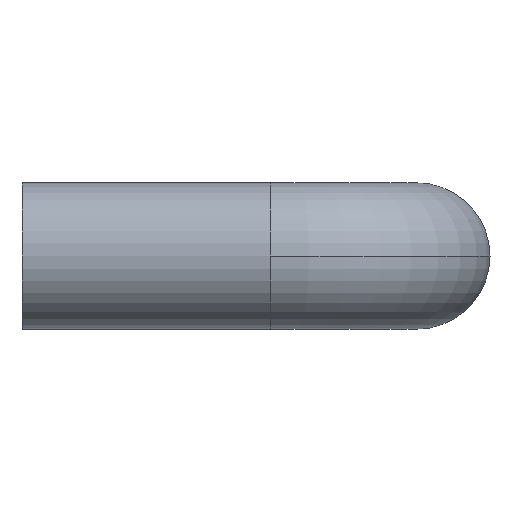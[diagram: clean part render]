
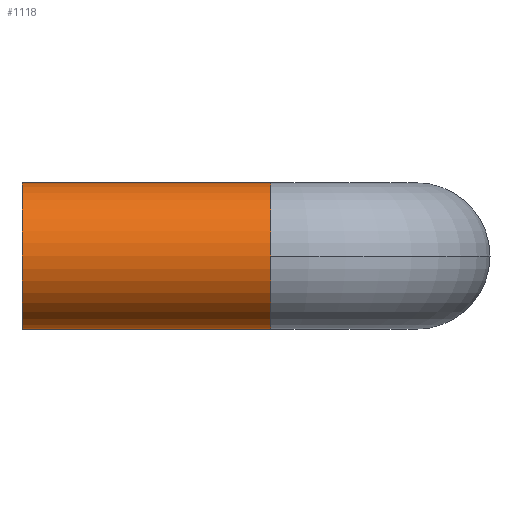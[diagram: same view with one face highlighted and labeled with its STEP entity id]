
A CAD part, front view. The second image highlights one B-rep face of the part: STEP entity #1118.
In plain terms, the highlighted cylindrical face has radius 5 mm (diameter 10 mm), a partial arc.
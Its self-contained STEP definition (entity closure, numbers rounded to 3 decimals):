
#28 = DIRECTION ( 'NONE',  ( 0., 0., -1. ) ) ;
#68 = CIRCLE ( 'NONE', #2179, 5. ) ;
#202 = ORIENTED_EDGE ( 'NONE', *, *, #1815, .T. ) ;
#210 = VERTEX_POINT ( 'NONE', #491 ) ;
#264 = DIRECTION ( 'NONE',  ( -1., 0., 0. ) ) ;
#321 = DIRECTION ( 'NONE',  ( -1., 0., 0. ) ) ;
#322 = CARTESIAN_POINT ( 'NONE',  ( -10., -85., 0. ) ) ;
#368 = EDGE_CURVE ( 'NONE', #210, #1262, #2594, .T. ) ;
#372 = VERTEX_POINT ( 'NONE', #1092 ) ;
#454 = LINE ( 'NONE', #2311, #1525 ) ;
#491 = CARTESIAN_POINT ( 'NONE',  ( -10., -80., -5. ) ) ;
#536 = CYLINDRICAL_SURFACE ( 'NONE', #1444, 5. ) ;
#552 = EDGE_LOOP ( 'NONE', ( #1706, #1751, #202, #2057, #2538 ) ) ;
#558 = CARTESIAN_POINT ( 'NONE',  ( -10., -80., 5. ) ) ;
#608 = CARTESIAN_POINT ( 'NONE',  ( -10., -80., 0. ) ) ;
#674 = FACE_OUTER_BOUND ( 'NONE', #552, .T. ) ;
#846 = LINE ( 'NONE', #558, #1753 ) ;
#941 = VERTEX_POINT ( 'NONE', #1019 ) ;
#1019 = CARTESIAN_POINT ( 'NONE',  ( -27., -80., 5. ) ) ;
#1092 = CARTESIAN_POINT ( 'NONE',  ( -27., -80., -5. ) ) ;
#1118 = ADVANCED_FACE ( 'NONE', ( #674 ), #536, .T. ) ;
#1218 = VERTEX_POINT ( 'NONE', #2164 ) ;
#1224 = DIRECTION ( 'NONE',  ( 0., 0., 1. ) ) ;
#1262 = VERTEX_POINT ( 'NONE', #322 ) ;
#1327 = DIRECTION ( 'NONE',  ( 0., 0., -1. ) ) ;
#1444 = AXIS2_PLACEMENT_3D ( 'NONE', #1792, #1511, #1224 ) ;
#1511 = DIRECTION ( 'NONE',  ( -1., 0., 0. ) ) ;
#1525 = VECTOR ( 'NONE', #2025, 1000. ) ;
#1549 = EDGE_CURVE ( 'NONE', #372, #941, #1986, .T. ) ;
#1623 = DIRECTION ( 'NONE',  ( -1., 0., 0. ) ) ;
#1668 = DIRECTION ( 'NONE',  ( 0., 0., -1. ) ) ;
#1706 = ORIENTED_EDGE ( 'NONE', *, *, #2392, .F. ) ;
#1751 = ORIENTED_EDGE ( 'NONE', *, *, #368, .T. ) ;
#1753 = VECTOR ( 'NONE', #264, 1000. ) ;
#1792 = CARTESIAN_POINT ( 'NONE',  ( -10., -80., 0. ) ) ;
#1811 = AXIS2_PLACEMENT_3D ( 'NONE', #1903, #1623, #1327 ) ;
#1815 = EDGE_CURVE ( 'NONE', #1262, #1218, #68, .T. ) ;
#1903 = CARTESIAN_POINT ( 'NONE',  ( -27., -80., 0. ) ) ;
#1946 = DIRECTION ( 'NONE',  ( -1., 0., 0. ) ) ;
#1986 = CIRCLE ( 'NONE', #1811, 5. ) ;
#2016 = EDGE_CURVE ( 'NONE', #1218, #941, #846, .T. ) ;
#2025 = DIRECTION ( 'NONE',  ( -1., 0., 0. ) ) ;
#2057 = ORIENTED_EDGE ( 'NONE', *, *, #2016, .T. ) ;
#2164 = CARTESIAN_POINT ( 'NONE',  ( -10., -80., 5. ) ) ;
#2179 = AXIS2_PLACEMENT_3D ( 'NONE', #608, #321, #28 ) ;
#2234 = CARTESIAN_POINT ( 'NONE',  ( -10., -80., 0. ) ) ;
#2311 = CARTESIAN_POINT ( 'NONE',  ( -10., -80., -5. ) ) ;
#2392 = EDGE_CURVE ( 'NONE', #210, #372, #454, .T. ) ;
#2481 = AXIS2_PLACEMENT_3D ( 'NONE', #2234, #1946, #1668 ) ;
#2538 = ORIENTED_EDGE ( 'NONE', *, *, #1549, .F. ) ;
#2594 = CIRCLE ( 'NONE', #2481, 5. ) ;
